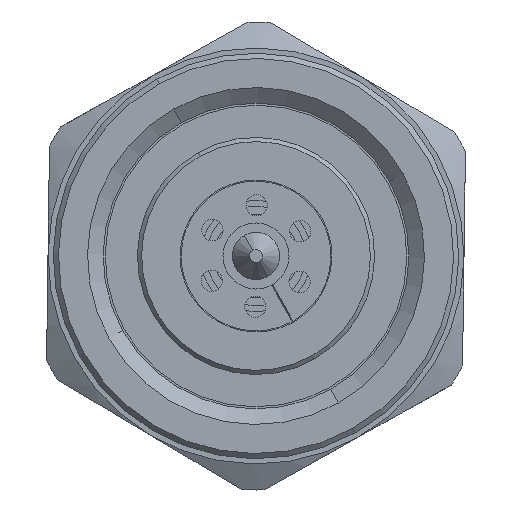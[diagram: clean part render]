
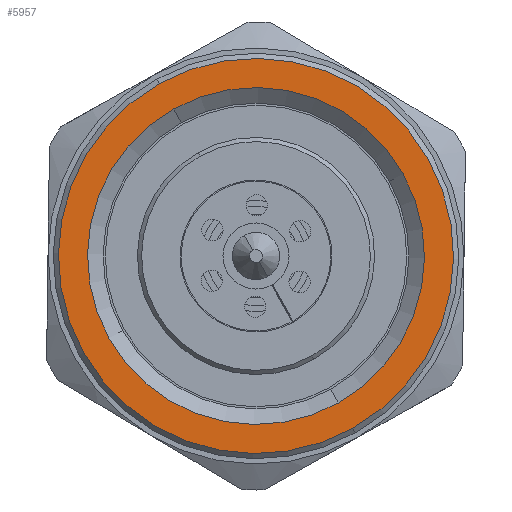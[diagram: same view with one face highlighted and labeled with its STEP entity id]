
A CAD part, left-side view. The second image highlights one B-rep face of the part: STEP entity #5957.
In plain terms, the highlighted planar face has unit normal (-1, 0, 0) as drawn and (0, 0, 1) by its records, which use the part's own axes.
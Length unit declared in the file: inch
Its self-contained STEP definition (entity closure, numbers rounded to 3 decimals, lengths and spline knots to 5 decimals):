
#749 = DIRECTION ( 'NONE',  ( -1., 0., 0. ) ) ;
#2637 = VERTEX_POINT ( 'NONE', #13154 ) ;
#4361 = EDGE_CURVE ( 'NONE', #10523, #25106, #5863, .T. ) ;
#4925 = DIRECTION ( 'NONE',  ( 0., 0., -1. ) ) ;
#5026 = FACE_BOUND ( 'NONE', #18575, .T. ) ;
#5053 = PLANE ( 'NONE',  #23958 ) ;
#5103 = ORIENTED_EDGE ( 'NONE', *, *, #16014, .F. ) ;
#5856 = DIRECTION ( 'NONE',  ( 0., 0., -1. ) ) ;
#5863 = CIRCLE ( 'NONE', #19602, 0.12756 ) ;
#5957 = ADVANCED_FACE ( 'NONE', ( #5026, #23871 ), #5053, .T. ) ;
#7480 = CARTESIAN_POINT ( 'NONE',  ( 0., 0., 0.33071 ) ) ;
#7693 = AXIS2_PLACEMENT_3D ( 'NONE', #29003, #14911, #749 ) ;
#9797 = DIRECTION ( 'NONE',  ( 1., 0., 0. ) ) ;
#9828 = DIRECTION ( 'NONE',  ( 1., 0., 0. ) ) ;
#10523 = VERTEX_POINT ( 'NONE', #14082 ) ;
#11277 = EDGE_LOOP ( 'NONE', ( #25669, #5103 ) ) ;
#11568 = VERTEX_POINT ( 'NONE', #22962 ) ;
#12571 = EDGE_CURVE ( 'NONE', #2637, #11568, #29996, .T. ) ;
#13154 = CARTESIAN_POINT ( 'NONE',  ( -0.14961, 0., 0.33071 ) ) ;
#14082 = CARTESIAN_POINT ( 'NONE',  ( -0.12756, 0., 0.33071 ) ) ;
#14900 = AXIS2_PLACEMENT_3D ( 'NONE', #19104, #4925, #21443 ) ;
#14911 = DIRECTION ( 'NONE',  ( 0., 0., -1. ) ) ;
#16014 = EDGE_CURVE ( 'NONE', #11568, #2637, #17807, .T. ) ;
#16620 = CIRCLE ( 'NONE', #26899, 0.12756 ) ;
#17807 = CIRCLE ( 'NONE', #14900, 0.14961 ) ;
#18575 = EDGE_LOOP ( 'NONE', ( #30309, #18911 ) ) ;
#18911 = ORIENTED_EDGE ( 'NONE', *, *, #4361, .T. ) ;
#19104 = CARTESIAN_POINT ( 'NONE',  ( 0., 0., 0.33071 ) ) ;
#19602 = AXIS2_PLACEMENT_3D ( 'NONE', #7480, #23981, #9828 ) ;
#20028 = CARTESIAN_POINT ( 'NONE',  ( 0., 0., 0.33071 ) ) ;
#21443 = DIRECTION ( 'NONE',  ( -1., 0., 0. ) ) ;
#21568 = CARTESIAN_POINT ( 'NONE',  ( 0., -0.14961, 0.33071 ) ) ;
#22362 = DIRECTION ( 'NONE',  ( 1., 0., 0. ) ) ;
#22962 = CARTESIAN_POINT ( 'NONE',  ( 0.14961, 0., 0.33071 ) ) ;
#23871 = FACE_OUTER_BOUND ( 'NONE', #11277, .T. ) ;
#23946 = DIRECTION ( 'NONE',  ( 0., 0., 1. ) ) ;
#23958 = AXIS2_PLACEMENT_3D ( 'NONE', #21568, #23946, #9797 ) ;
#23981 = DIRECTION ( 'NONE',  ( 0., 0., -1. ) ) ;
#24634 = EDGE_CURVE ( 'NONE', #25106, #10523, #16620, .T. ) ;
#25106 = VERTEX_POINT ( 'NONE', #25199 ) ;
#25199 = CARTESIAN_POINT ( 'NONE',  ( 0.12756, 0., 0.33071 ) ) ;
#25669 = ORIENTED_EDGE ( 'NONE', *, *, #12571, .F. ) ;
#26899 = AXIS2_PLACEMENT_3D ( 'NONE', #20028, #5856, #22362 ) ;
#29003 = CARTESIAN_POINT ( 'NONE',  ( 0., 0., 0.33071 ) ) ;
#29996 = CIRCLE ( 'NONE', #7693, 0.14961 ) ;
#30309 = ORIENTED_EDGE ( 'NONE', *, *, #24634, .T. ) ;
